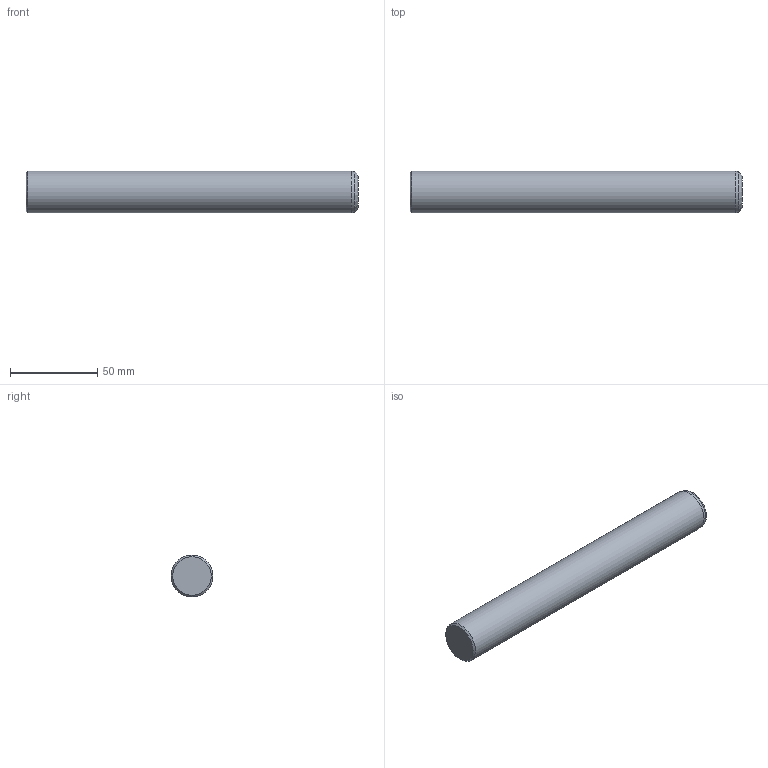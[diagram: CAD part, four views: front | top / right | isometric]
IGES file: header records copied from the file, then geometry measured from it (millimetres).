
Global section: file name: CIS24190.ipt; native system: Autodesk Inventor 2021; preprocessor: unknown; author: SM; date: 20211220.124256; units: millimetre
Bounding box: 190 x 24 x 24 mm (x, y, z)
Volume: 85700 mm3; surface area: 15057.5 mm2
Topology: 1 solids, 1 shells, 6 faces, 11 edges, 7 vertices
Faces by surface type: cone 2, plane 2, revolution 1, cylinder 1
Full cylindrical faces by diameter (mm): 24 x1
